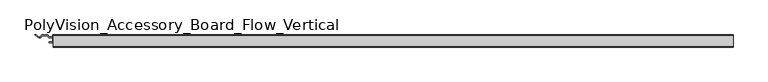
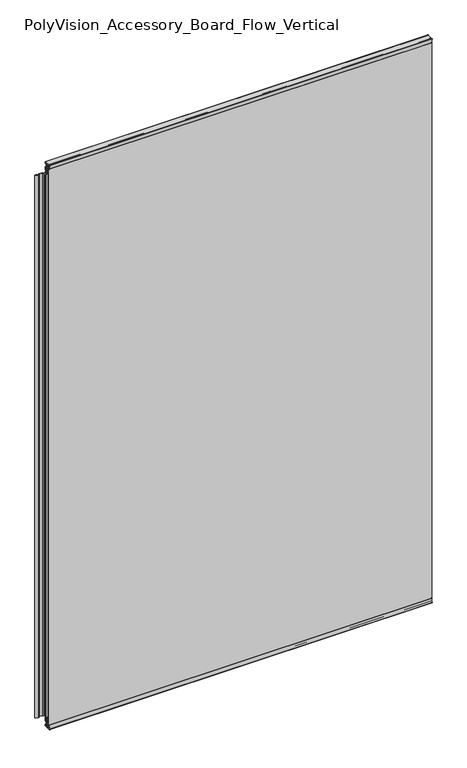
"""IFC4 building model written with IfcOpenShell, lengths in millimetres: furniture geometry, PolyVision_Accessory_Board_Flow_Vertical : 47W x 72H (1185 W x 1830 H)."""

from ifc_helpers import new_model, si_unit, point, frame, frame_2d, origin, place, context, project, spatial, polyline, circle_curve, trimmed, segment, composite_curve, outline, extrude, source, transform, mapped, element, save


def polyvision_accessory_board_flow_vertical_01536e87(model_context):
    return source(origin(), model_context, "Body", "SweptSolid", [
        extrude(outline(polyline([(-2.1773004, 1827.6977202), (-2.1773004, 1826.8340763), (11.9065147, 1826.8340763), (11.9065147, 1824.149308), (7.6861579, 1824.149308), (7.6861579, 1817.1597246), (11.9065147, 1814.0934559), (11.9065147, 1804.1500962), (8.0075268, 1801.3173157), (7.7813476, 1800.4732034), (9.5131033, 1798.0), (7.5873908, 1798.0), (6.1707503, 1800.0231723), (6.1707503, 1801.7730492), (10.4011044, 1804.8465813), (10.4011044, 1813.2889188), (6.1707503, 1816.3624509), (6.1707503, 1823.2252503), (5.2024973, 1823.2252503), (4.2308366, 1824.3425727), (3.1736041, 1823.2853402), (2.1319224, 1824.3270218), (1.2210895, 1823.2415334), (0.4403969, 1824.2407744), (-0.5343781, 1823.2659994), (-1.3255269, 1823.2659994), (-1.3255269, 1824.7318758), (-2.1773004, 1824.7318758), (-2.1773004, 1823.8660166), (-5.4323759, 1824.6775981), (-5.4323759, 1826.8964971), (-2.1773004, 1827.6977202)])), frame((-587.0671964, 0.0, 0.0), z_axis=(1.0, 0.0, 0.0), x_axis=(0.0, 1.0, 0.0)), (0.0, 0.0, 1.0), 1174.1343929),
        extrude(outline(polyline([(-587.7413843, 0.0476856), (-587.7413843, 6.7743691), (-595.1878129, 6.7743691), (-597.7413843, 10.3493691), (-606.1415584, 10.3493691), (-608.7389479, 6.7743691), (-611.9925808, 6.7743691), (-618.9777191, 11.8493691), (-616.3960682, 11.8493691), (-610.1907804, 7.3409636), (-606.8911765, 11.8824787), (-596.8911765, 11.8824787), (-594.3371154, 8.3067932), (-587.741586, 8.3067932), (-587.741586, 11.8421507), (-586.3411827, 11.8421507), (-586.3411827, 8.3067932), (-579.7456533, 8.3067932), (-577.1915922, 11.8824787), (-567.1915922, 11.8824787), (-563.8919883, 7.3409636), (-557.6867004, 11.8493691), (-555.1050496, 11.8493691), (-562.0901879, 6.7743691), (-565.3438207, 6.7743691), (-567.9412103, 10.3493691), (-576.3413843, 10.3493691), (-578.8949558, 6.7743691), (-586.3413843, 6.7743691), (-586.3413843, 0.0476856), (-579.6671757, 0.0476856), (-578.6671757, -0.9523144), (-579.6671757, -1.9523144), (-594.4155929, -1.9523144), (-595.4155929, -0.9523144), (-594.4155929, 0.0476856), (-587.7413843, 0.0476856)])), frame((0.0, 0.0, 39.0), z_axis=(0.0, 0.0, 1.0), x_axis=(1.0, 0.0, 0.0)), (0.0, 0.0, 1.0), 1759.0),
        extrude(outline(composite_curve([segment(trimmed(circle_curve(frame_2d((-8.1716005, 1829.5)), 0.5), [point((-8.6715851, 1829.4960719))], [point((-8.1716005, 1830.0))], False, "CARTESIAN"), True, "CONTINUOUS"), segment(polyline([(-8.1716005, 1830.0), (11.3266235, 1830.0)]), True, "CONTINUOUS"), segment(trimmed(circle_curve(frame_2d((11.3266235, 1829.5)), 0.5), [point((11.3266235, 1830.0))], [point((11.8266235, 1829.5))], False, "CARTESIAN"), True, "CONTINUOUS"), segment(polyline([(11.8266235, 1829.5), (11.8266235, 1827.8)]), True, "CONTINUOUS"), segment(trimmed(circle_curve(frame_2d((11.3266235, 1827.8)), 0.5), [point((11.8266235, 1827.8))], [point((11.3266235, 1827.3))], False, "CARTESIAN"), True, "CONTINUOUS"), segment(polyline([(11.3266235, 1827.3), (3.5266235, 1827.3), (1.7766235, 1828.0), (-1.2361675, 1828.0)]), True, "CONTINUOUS"), segment(trimmed(circle_curve(frame_2d((-2.1069461, 1828.4916753)), 1.0), [point((-1.2361675, 1828.0))], [point((-1.9673188, 1827.5014712))], False, "CARTESIAN"), True, "CONTINUOUS"), segment(polyline([(-1.9673188, 1827.5014712), (-2.5584614, 1828.0926138), (-3.6232202, 1827.487699), (-4.1898472, 1828.1395287), (-6.5482658, 1827.54375), (-6.5482658, 1825.0125), (-5.2722627, 1824.6901588), (-3.0119913, 1824.6901588), (-1.2728233, 1825.0075276), (-1.2728233, 1824.1), (-6.2540145, 1824.1)]), True, "CONTINUOUS"), segment(trimmed(circle_curve(frame_2d((-6.2540145, 1823.6)), 0.5), [point((-6.2540145, 1824.1))], [point((-6.7536539, 1823.5810127))], True, "CARTESIAN"), True, "CONTINUOUS"), segment(polyline([(-6.7536539, 1823.5810127), (-6.4849935, 1816.5113924)]), True, "CONTINUOUS"), segment(trimmed(circle_curve(frame_2d((-6.7847771, 1816.5)), 0.3), [point((-6.4849935, 1816.5113924))], [point((-7.0765247, 1816.4301188))], False, "CARTESIAN"), True, "CONTINUOUS"), segment(trimmed(circle_curve(frame_2d((49.3766235, 1829.9521217)), 58.05), [point((-7.0765247, 1816.4301188))], [point((-8.6715851, 1829.4960719))], False, "CARTESIAN"), True, "CONTINUOUS")], self_intersect=False)), frame((-587.0671964, 0.0, 0.0), z_axis=(1.0, 0.0, 0.0), x_axis=(0.0, 1.0, 0.0)), (0.0, 0.0, 1.0), 1174.1343929),
        extrude(outline(composite_curve([segment(trimmed(circle_curve(frame_2d((49.3766235, 1.0478783)), 58.05), [point((-8.6715851, 1.5039281))], [point((-7.0765247, 14.5698812))], False, "CARTESIAN"), True, "CONTINUOUS"), segment(trimmed(circle_curve(frame_2d((-6.7847771, 14.5)), 0.3), [point((-7.0765247, 14.5698812))], [point((-6.4849935, 14.4886076))], False, "CARTESIAN"), True, "CONTINUOUS"), segment(polyline([(-6.4849935, 14.4886076), (-6.7536539, 7.4189873)]), True, "CONTINUOUS"), segment(trimmed(circle_curve(frame_2d((-6.2540145, 7.4)), 0.5), [point((-6.7536539, 7.4189873))], [point((-6.2540145, 6.9))], True, "CARTESIAN"), True, "CONTINUOUS"), segment(polyline([(-6.2540145, 6.9), (-1.2728233, 6.9), (-1.2728233, 5.9924724), (-3.0119913, 6.3098412), (-5.2722627, 6.3098412), (-6.5482658, 5.9875), (-6.5482658, 3.45625), (-4.1898472, 2.8604713), (-3.6232202, 3.512301), (-2.5584614, 2.9073862), (-1.9673188, 3.4985288)]), True, "CONTINUOUS"), segment(trimmed(circle_curve(frame_2d((-2.1069461, 2.5083247)), 1.0), [point((-1.9673188, 3.4985288))], [point((-1.2361675, 3.0))], False, "CARTESIAN"), True, "CONTINUOUS"), segment(polyline([(-1.2361675, 3.0), (1.7766235, 3.0), (3.5266235, 3.7), (11.3266235, 3.7)]), True, "CONTINUOUS"), segment(trimmed(circle_curve(frame_2d((11.3266235, 3.2)), 0.5), [point((11.3266235, 3.7))], [point((11.8266235, 3.2))], False, "CARTESIAN"), True, "CONTINUOUS"), segment(polyline([(11.8266235, 3.2), (11.8266235, 1.5)]), True, "CONTINUOUS"), segment(trimmed(circle_curve(frame_2d((11.3266235, 1.5)), 0.5), [point((11.8266235, 1.5))], [point((11.3266235, 1.0))], False, "CARTESIAN"), True, "CONTINUOUS"), segment(polyline([(11.3266235, 1.0), (-8.1716005, 1.0)]), True, "CONTINUOUS"), segment(trimmed(circle_curve(frame_2d((-8.1716005, 1.5)), 0.5), [point((-8.1716005, 1.0))], [point((-8.6715851, 1.5039281))], False, "CARTESIAN"), True, "CONTINUOUS")], self_intersect=False)), frame((-587.0671964, 0.0, 0.0), z_axis=(1.0, 0.0, 0.0), x_axis=(0.0, 1.0, 0.0)), (0.0, 0.0, 1.0), 1174.1343929),
        extrude(outline(polyline([(-2.1773004, 3.0522798), (-5.4323759, 3.8535029), (-5.4323759, 6.0724019), (-2.1773004, 6.8839834), (-2.1773004, 6.0181242), (-1.3255269, 6.0181242), (-1.3255269, 7.4840006), (-0.5343781, 7.4840006), (0.4403969, 6.5092256), (1.2210895, 7.5084666), (2.1319224, 6.4229782), (3.1736041, 7.4646598), (4.2308366, 6.4074273), (5.2024973, 7.5247497), (6.1707503, 7.5247497), (6.1707503, 14.3875491), (10.4011044, 17.4610812), (10.4011044, 25.9034187), (6.1707503, 28.9769508), (6.1707503, 30.7268277), (11.9065147, 38.9183482), (11.9065147, 36.1681457), (7.7813476, 30.2767966), (8.0075268, 29.4326843), (11.9065147, 26.5999038), (11.9065147, 16.6565441), (7.6861579, 13.5902754), (7.6861579, 6.600692), (11.9065147, 6.600692), (11.9065147, 3.9159237), (-2.1773004, 3.9159237), (-2.1773004, 3.0522798)])), frame((-587.0671964, 0.0, 0.0), z_axis=(1.0, 0.0, 0.0), x_axis=(0.0, 1.0, 0.0)), (0.0, 0.0, 1.0), 1174.1343929),
        extrude(outline(polyline([(587.0671964, -6.2220176), (587.0671964, -7.0048301), (-587.0671964, -7.0048301), (-587.0671964, -6.2220176), (587.0671964, -6.2220176)])), frame((0.0, 0.0, 7.0), z_axis=(0.0, 0.0, 1.0), x_axis=(1.0, 0.0, 0.0)), (0.0, 0.0, 1.0), 1817.0),
        extrude(outline(polyline([(585.0671964, 5.9853098), (585.0671964, 5.2024973), (-585.0671964, 5.2024973), (-585.0671964, 5.9853098), (585.0671964, 5.9853098)])), frame((0.0, 0.0, 7.0), z_axis=(0.0, 0.0, 1.0), x_axis=(1.0, 0.0, 0.0)), (0.0, 0.0, 1.0), 1817.0),
        extrude(outline(polyline([(585.0671964, 5.2024973), (585.0671964, 0.2355242), (575.0671964, 0.2355242), (575.0671964, -2.1351563), (587.0671964, -2.1351563), (587.0671964, -5.7140707), (-587.0671964, -5.7140707), (-587.0671964, -2.1351563), (-575.0671964, -2.1351563), (-575.0671964, 0.2355242), (-585.0671964, 0.2355242), (-585.0671964, 5.2024973), (585.0671964, 5.2024973)])), frame((0.0, 0.0, 7.0), z_axis=(0.0, 0.0, 1.0), x_axis=(1.0, 0.0, 0.0)), (0.0, 0.0, 1.0), 1817.0),
    ])


if __name__ == "__main__":
    model = new_model("IFC4")
    model_context = context("Model", 3, world=origin())
    ifc_project = project(units=[si_unit("LENGTHUNIT", "METRE", prefix="MILLI")], contexts=[model_context])
    site = spatial("IfcSite", under=ifc_project)
    building = spatial("IfcBuilding", under=site)
    placement = place(None, origin())
    polyvision_accessory_board_flow_vertical_shape = polyvision_accessory_board_flow_vertical_01536e87(model_context)
    element("IfcFurniture", 1, ObjectType="PolyVision_Accessory_Board_Flow_Vertical : 47W x 72H (1185 W x 1830 H)", at=placement, inside=building, context=model_context, shape_type="MappedRepresentation", body=[
        mapped(polyvision_accessory_board_flow_vertical_shape, transform((0.0, 0.0, 0.0), x_axis=(1.0, 0.0, 0.0), y_axis=(0.0, 1.0, 0.0), z_axis=(0.0, 0.0, 1.0))),
    ])
    save(model, "model.ifc")
